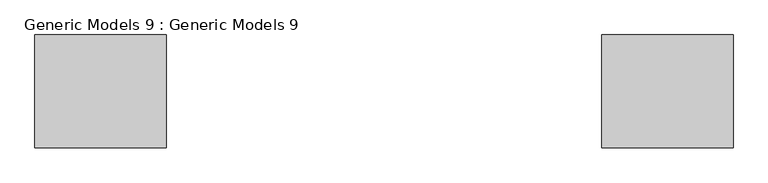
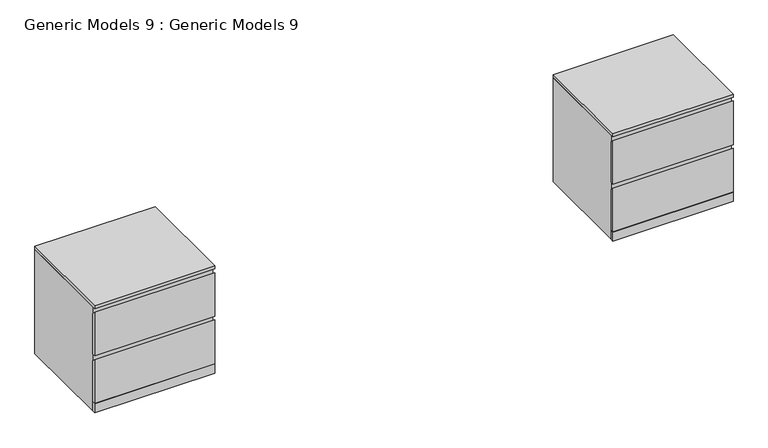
"""IFC4 building model written with IfcOpenShell, lengths in millimetres: proxy geometry, Generic Models 9 : Generic Models 9."""

from ifc_helpers import new_model, si_unit, frame, origin, origin_with_axes, place, context, project, spatial, polyline, outline, extrude, source, transform, mapped, element, save


def generic_models_9_generic_models_9_42a9b93f(model_context):
    return source(origin(), model_context, "Body", "SweptSolid", [
        extrude(outline(polyline([(3992.4981388, -76.0066318), (4592.4981388, -76.0066318), (4592.4981388, -592.0066318), (3992.4981388, -592.0066318), (3992.4981388, -76.0066318)])), frame((0.0, 0.0, 550.0), z_axis=(0.0, 0.0, 1.0), x_axis=(1.0, 0.0, 0.0)), (0.0, 0.0, 1.0), 16.0),
        extrude(outline(polyline([(1402.4981388, -76.0066318), (2002.4981388, -76.0066318), (2002.4981388, -592.0066318), (1402.4981388, -592.0066318), (1402.4981388, -76.0066318)])), frame((0.0, 0.0, 550.0), z_axis=(0.0, 0.0, 1.0), x_axis=(1.0, 0.0, 0.0)), (0.0, 0.0, 1.0), 16.0),
        extrude(outline(polyline([(-576.0066318, 264.0), (-576.0066318, 50.0), (-592.0066318, 50.0), (-592.0066318, 280.0), (-576.0066318, 264.0)])), frame((1402.4981388, 0.0, 0.0), z_axis=(1.0, 0.0, 0.0), x_axis=(0.0, 1.0, 0.0)), (0.0, 0.0, 1.0), 600.0),
        extrude(outline(polyline([(-592.0066318, 300.0), (-592.0066318, 530.0), (-576.0066318, 514.0), (-576.0066318, 300.0), (-592.0066318, 300.0)])), frame((1402.4981388, 0.0, 0.0), z_axis=(1.0, 0.0, 0.0), x_axis=(0.0, 1.0, 0.0)), (0.0, 0.0, 1.0), 600.0),
        extrude(outline(polyline([(1402.4981388, -592.0066318), (1402.4981388, -576.0066318), (2002.4981388, -576.0066318), (2002.4981388, -592.0066318), (1402.4981388, -592.0066318)])), origin_with_axes(), (0.0, 0.0, 1.0), 48.0),
        extrude(outline(polyline([(-576.0066318, 264.0), (-576.0066318, 50.0), (-592.0066318, 50.0), (-592.0066318, 280.0), (-576.0066318, 264.0)])), frame((3992.4981388, 0.0, 0.0), z_axis=(1.0, 0.0, 0.0), x_axis=(0.0, 1.0, 0.0)), (0.0, 0.0, 1.0), 600.0),
        extrude(outline(polyline([(-592.0066318, 300.0), (-592.0066318, 530.0), (-576.0066318, 514.0), (-576.0066318, 300.0), (-592.0066318, 300.0)])), frame((3992.4981388, 0.0, 0.0), z_axis=(1.0, 0.0, 0.0), x_axis=(0.0, 1.0, 0.0)), (0.0, 0.0, 1.0), 600.0),
        extrude(outline(polyline([(3992.4981388, -592.0066318), (3992.4981388, -576.0066318), (4592.4981388, -576.0066318), (4592.4981388, -592.0066318), (3992.4981388, -592.0066318)])), origin_with_axes(), (0.0, 0.0, 1.0), 48.0),
        extrude(outline(polyline([(4592.4981388, -76.0066318), (4592.4981388, -576.0066318), (3992.4981388, -576.0066318), (3992.4981388, -76.0066318), (4592.4981388, -76.0066318)])), origin_with_axes(), (0.0, 0.0, 1.0), 550.0),
        extrude(outline(polyline([(2002.4981388, -76.0066318), (2002.4981388, -576.0066318), (1402.4981388, -576.0066318), (1402.4981388, -76.0066318), (2002.4981388, -76.0066318)])), origin_with_axes(), (0.0, 0.0, 1.0), 550.0),
    ])


if __name__ == "__main__":
    model = new_model("IFC4")
    model_context = context("Model", 3, world=origin())
    ifc_project = project(units=[si_unit("LENGTHUNIT", "METRE", prefix="MILLI")], contexts=[model_context])
    site = spatial("IfcSite", under=ifc_project)
    building = spatial("IfcBuilding", under=site)
    placement = place(None, origin())
    generic_models_9_generic_models_9_shape = generic_models_9_generic_models_9_42a9b93f(model_context)
    element("IfcBuildingElementProxy", 1, Name="Generic Models 9 : Generic Models 9", ObjectType="Generic Models 9 : Generic Models 9", at=placement, inside=building, context=model_context, shape_type="MappedRepresentation", body=[
        mapped(generic_models_9_generic_models_9_shape, transform((0.0, 0.0, 0.0), x_axis=(1.0, 0.0, 0.0), y_axis=(0.0, 1.0, 0.0), z_axis=(0.0, 0.0, 1.0))),
    ])
    save(model, "model.ifc")
